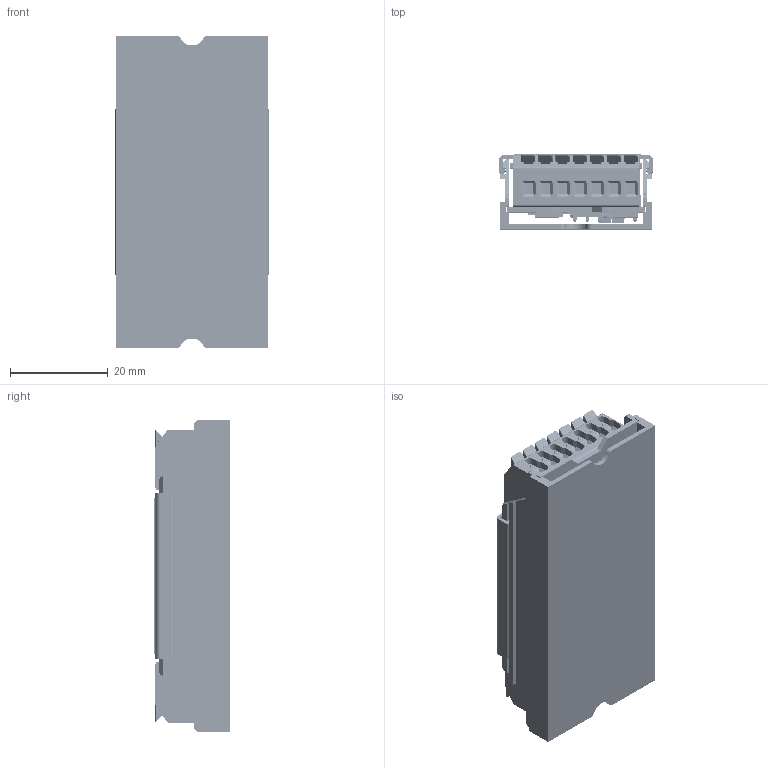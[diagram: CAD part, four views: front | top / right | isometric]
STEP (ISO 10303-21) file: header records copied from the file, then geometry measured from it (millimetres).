
FILE_DESCRIPTION((''),'2;1');
FILE_NAME('15_CASE_ASM','2026-03-24T09:53:33',('15365'),(''),'CREO PARAMETRIC BY PTC INC, 2025323','CREO PARAMETRIC BY PTC INC, 2025323','');
FILE_SCHEMA(('CONFIG_CONTROL_DESIGN'));
Products named in the file (440): 15_BOTTOM; 15_TOP; 15_BIAOQIAN; OPEN_CASCADE_STEP_TRANSLATO-1_2; BOARD-108_1_2_ASM; HDR2_54-1P-10091_1_2; LOGO_-11000_1_2_3_4_1; LOGO_-11000_1_2_3_4_2; LOGO_-11000_1_2_3_4_3; LOGO_-11000_1_2_3_4_4; LOGO_-11000_1_2_3_4_5; LOGO_-11000_1_2_3_4_6; LOGO_-11000_1_2_3_4_7; LOGO_-11000_1_2_3_4_8; LOGO_-11000_1_2_3_4_9; LOGO_-11000_1_2_3_4_10; LOGO_-11000_1_2_3_4_11; LOGO_-11000_1_2_3_4_12; LOGO_-11000_1_2_3_4_13; LOGO_-11000_1_2_3_4_14; LOGO_-11000_1_2_3_4_ASM; HDR2_54-1P-10077_1_2_ASM; DESIGNATOR74_1_2_ASM; HDR2_54-1X2P-14132_1_2; LOGO_-15517_1_2_3_4_1; LOGO_-15517_1_2_3_4_2; LOGO_-15517_1_2_3_4_3; LOGO_-15517_1_2_3_4_4; LOGO_-15517_1_2_3_4_5; LOGO_-15517_1_2_3_4_6; LOGO_-15517_1_2_3_4_7; LOGO_-15517_1_2_3_4_8; LOGO_-15517_1_2_3_4_9; LOGO_-15517_1_2_3_4_10; LOGO_-15517_1_2_3_4_11; LOGO_-15517_1_2_3_4_12; LOGO_-15517_1_2_3_4_13; LOGO_-15517_1_2_3_4_14; LOGO_-15517_1_2_3_4_ASM; HDR2_54-1X2P-14118_1_2_ASM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
Assembly tree (556 placements, depth 8):
  15_CASE_ASM
    15_BOTTOM
    15_TOP
    15_BIAOQIAN
    ASM0002_ASM
      BOARD-108_1_2_ASM
        OPEN_CASCADE_STEP_TRANSLATO-1_2
      DESIGNATOR74_1_2_ASM
        HDR2_54-1P-10077_1_2_ASM  x3
          HDR2_54-1P-10091_1_2
          LOGO_-11000_1_2_3_4_ASM
            LOGO_-11000_1_2_3_4_1
            LOGO_-11000_1_2_3_4_2
            LOGO_-11000_1_2_3_4_3
            LOGO_-11000_1_2_3_4_4
            LOGO_-11000_1_2_3_4_5
            LOGO_-11000_1_2_3_4_6
            LOGO_-11000_1_2_3_4_7
            LOGO_-11000_1_2_3_4_8
            LOGO_-11000_1_2_3_4_9
            LOGO_-11000_1_2_3_4_10
            LOGO_-11000_1_2_3_4_11
            LOGO_-11000_1_2_3_4_12
            LOGO_-11000_1_2_3_4_13
            LOGO_-11000_1_2_3_4_14
      DESIGNATOR72_1_2_ASM
        HDR2_54-1X2P-14118_1_2_ASM  x3
          HDR2_54-1X2P-14132_1_2
          LOGO_-15517_1_2_3_4_ASM
            LOGO_-15517_1_2_3_4_1
            LOGO_-15517_1_2_3_4_2
            LOGO_-15517_1_2_3_4_3
            LOGO_-15517_1_2_3_4_4
            LOGO_-15517_1_2_3_4_5
            LOGO_-15517_1_2_3_4_6
            LOGO_-15517_1_2_3_4_7
            LOGO_-15517_1_2_3_4_8
            LOGO_-15517_1_2_3_4_9
            LOGO_-15517_1_2_3_4_10
            LOGO_-15517_1_2_3_4_11
            LOGO_-15517_1_2_3_4_12
            LOGO_-15517_1_2_3_4_13
            LOGO_-15517_1_2_3_4_14
      DESIGNATOR71_1_2_ASM
        HDR2_54-1X2P-14118_1_2_ASM  x3
          HDR2_54-1X2P-14132_1_2
          LOGO_-15517_1_2_3_4_ASM
            LOGO_-15517_1_2_3_4_1
            LOGO_-15517_1_2_3_4_2
            LOGO_-15517_1_2_3_4_3
            LOGO_-15517_1_2_3_4_4
            LOGO_-15517_1_2_3_4_5
            LOGO_-15517_1_2_3_4_6
            LOGO_-15517_1_2_3_4_7
            LOGO_-15517_1_2_3_4_8
            LOGO_-15517_1_2_3_4_9
            LOGO_-15517_1_2_3_4_10
            LOGO_-15517_1_2_3_4_11
            LOGO_-15517_1_2_3_4_12
            LOGO_-15517_1_2_3_4_13
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Bounding box: 31.5 x 15.4 x 64.1 mm (x, y, z)
Volume: 15082.5 mm3; surface area: 29517.3 mm2
Topology: 689 solids, 1187 shells, 10707 faces, 27133 edges, 18697 vertices
Faces by surface type: plane 7607, cylinder 1804, torus 552, extrusion 384, sphere 304, bspline 56
Entity records: 142197 total; most frequent: CARTESIAN_POINT 60231, DIRECTION 15517, ORIENTED_EDGE 14799, EDGE_CURVE 7666, VERTEX_POINT 5469, VECTOR 5197, AXIS2_PLACEMENT_3D 5160, LINE 5017
